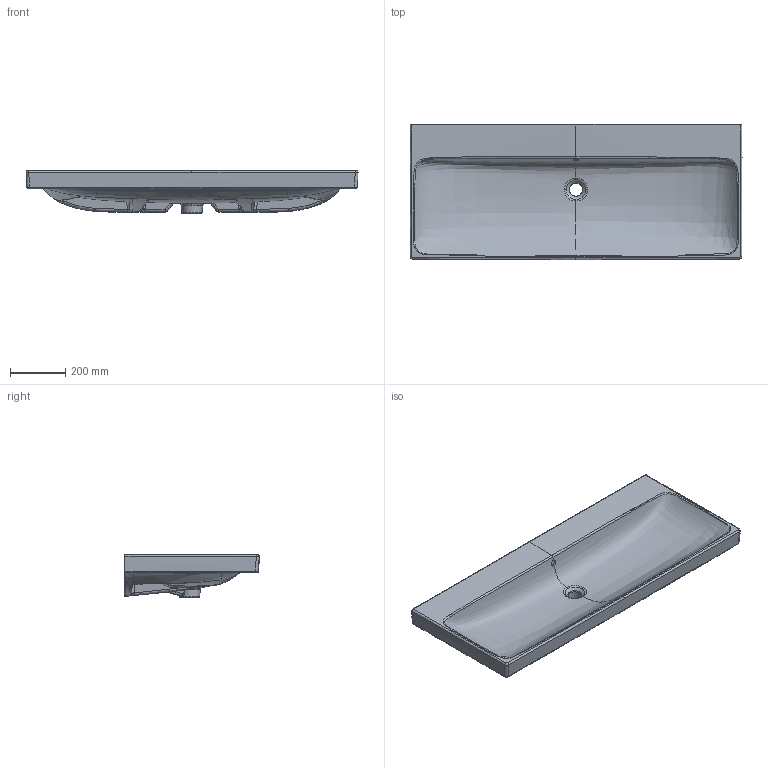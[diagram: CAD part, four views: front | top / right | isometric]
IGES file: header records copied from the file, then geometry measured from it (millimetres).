
Global section: file name: 510.011.00.5; native system: Autodesk Inventor 2023; preprocessor: unknown; author: JANAN; date: 20241002.131256; units: millimetre
Bounding box: 1198.17 x 487.7 x 155.99 mm (x, y, z)
Volume: 20025404.1 mm3; surface area: 1788136.5 mm2
Topology: 1 solids, 1 shells, 421 faces, 1073 edges, 645 vertices
Faces by surface type: bspline 421
